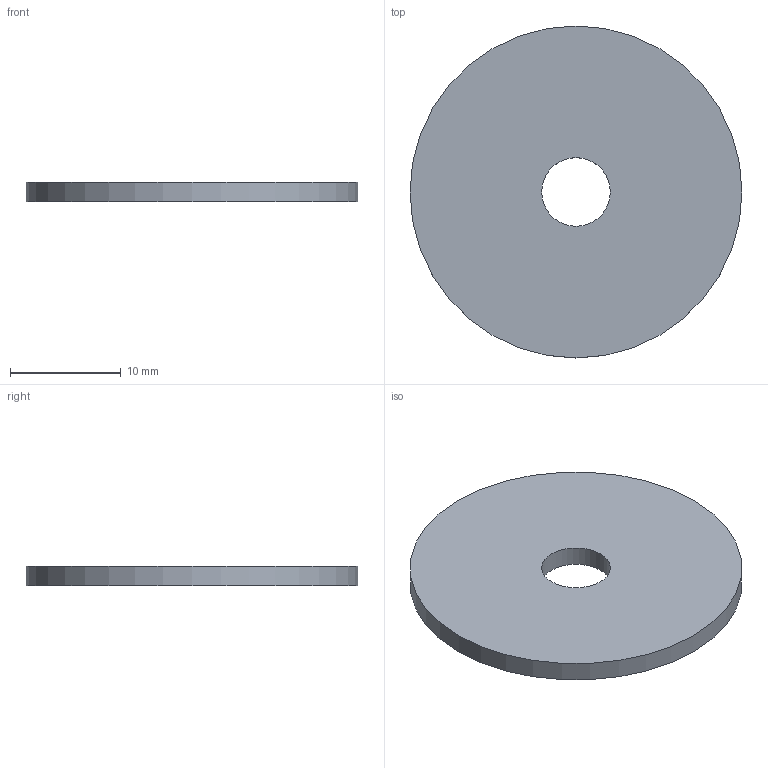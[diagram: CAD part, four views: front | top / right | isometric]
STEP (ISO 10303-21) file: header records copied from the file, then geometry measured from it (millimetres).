
FILE_DESCRIPTION (( 'STEP AP214' ), '1' );
FILE_NAME ('F12706.step', '2024-12-03T16:15:11', ( '' ), ( '' ), 'SwSTEP 2.0', 'SolidWorks 2023', '' );
FILE_SCHEMA (( 'AUTOMOTIVE_DESIGN' ));
Length unit declared in the file: millimetre
Products named in the file (1): F12706
Bounding box: 30 x 30 x 1.8 mm (x, y, z)
Volume: 1218 mm3; surface area: 1558 mm2
Topology: 1 solids, 1 shells, 4 faces, 6 edges, 4 vertices
Faces by surface type: plane 2, cylinder 2
Full cylindrical faces by diameter (mm): 6.2 x1, 30 x1
Entity records: 111 total; most frequent: DIRECTION 18, CARTESIAN_POINT 13, AXIS2_PLACEMENT_3D 9, EDGE_LOOP 8, ORIENTED_EDGE 8, FACE_OUTER_BOUND 6, VERTEX_POINT 4, EDGE_CURVE 4
